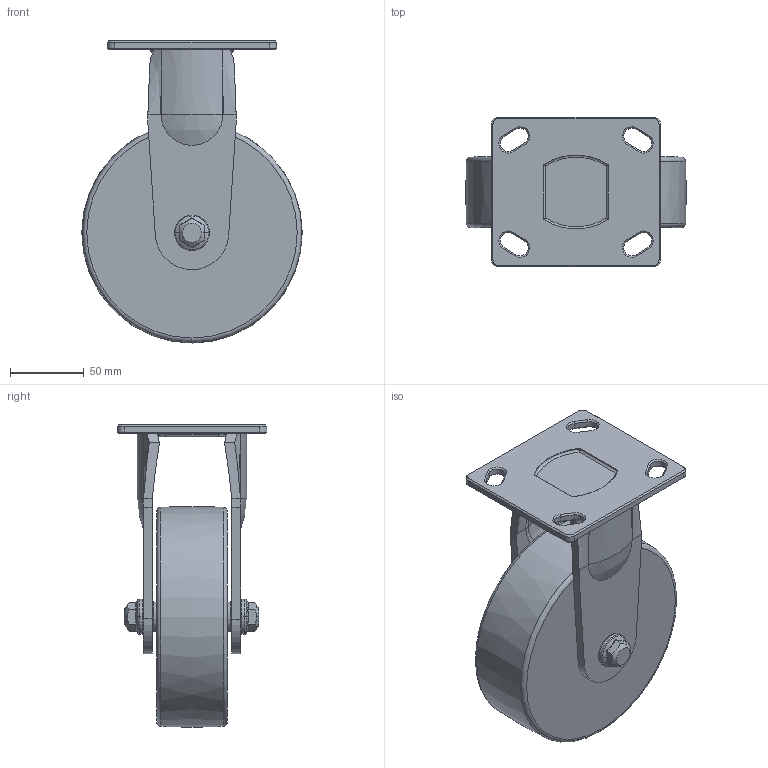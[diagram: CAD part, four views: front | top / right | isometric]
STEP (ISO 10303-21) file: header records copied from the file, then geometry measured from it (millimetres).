
FILE_DESCRIPTION((''),'2;1');
FILE_NAME('GH-150-ARF-MCD.stp','2013-04-30T16:13:46',(''),(''),'Mechanical Desktop 2009','Mechanical Desktop 2009',', , ');
FILE_SCHEMA(('CONFIG_CONTROL_DESIGN'));
Length unit declared in the file: millimetre
Products named in the file (2): GH-150-ARF-MCD; RF-PLATE
Assembly tree (1 placements, depth 2):
  GH-150-ARF-MCD
    RF-PLATE
Bounding box: 150 x 102 x 205.45 mm (x, y, z)
Volume: 1016317.8 mm3; surface area: 118462.3 mm2
Topology: 1 solids, 1 shells, 239 faces, 556 edges, 330 vertices
Faces by surface type: plane 83, bspline 50, cone 42, cylinder 42, torus 18, sphere 4
Entity records: 8925 total; most frequent: CARTESIAN_POINT 3667, ORIENTED_EDGE 1104, DIRECTION 1008, EDGE_CURVE 552, AXIS2_PLACEMENT_3D 389, VERTEX_POINT 330, EDGE_LOOP 264, FACE_OUTER_BOUND 239
